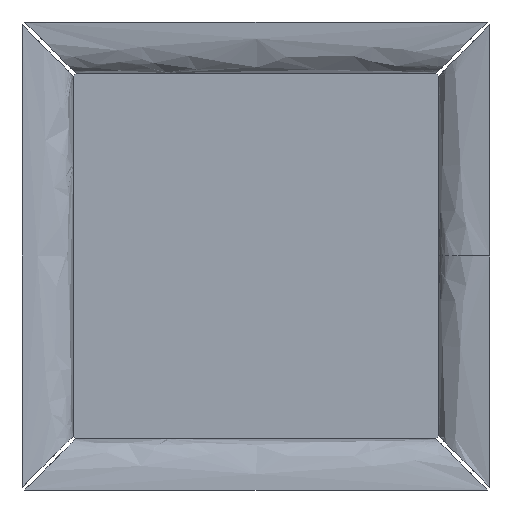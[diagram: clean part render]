
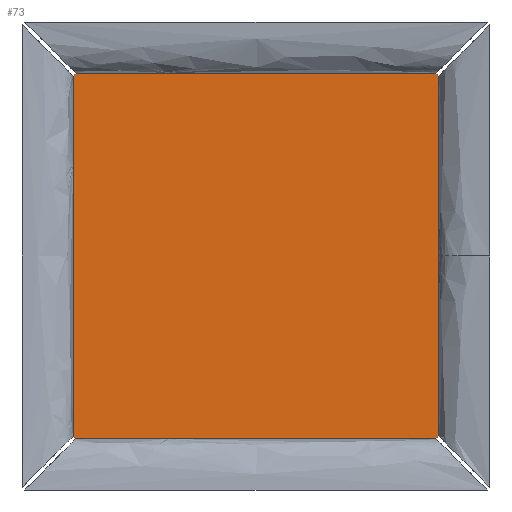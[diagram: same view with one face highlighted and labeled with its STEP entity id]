
A CAD part, front view. The second image highlights one B-rep face of the part: STEP entity #73.
In plain terms, the highlighted planar face has unit normal (0, -1, 0).
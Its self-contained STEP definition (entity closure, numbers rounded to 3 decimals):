
#73=ADVANCED_FACE('',(#141),#1005,.T.);
#141=FACE_OUTER_BOUND('',#209,.T.);
#209=EDGE_LOOP('',(#457,#458,#459,#460,#461,#462,#463,#464));
#457=ORIENTED_EDGE('',*,*,#651,.T.);
#458=ORIENTED_EDGE('',*,*,#665,.T.);
#459=ORIENTED_EDGE('',*,*,#664,.T.);
#460=ORIENTED_EDGE('',*,*,#663,.T.);
#461=ORIENTED_EDGE('',*,*,#662,.T.);
#462=ORIENTED_EDGE('',*,*,#661,.T.);
#463=ORIENTED_EDGE('',*,*,#660,.T.);
#464=ORIENTED_EDGE('',*,*,#659,.T.);
#651=EDGE_CURVE('',#918,#932,#807,.T.);
#659=EDGE_CURVE('',#926,#918,#815,.T.);
#660=EDGE_CURVE('',#927,#926,#816,.T.);
#661=EDGE_CURVE('',#928,#927,#817,.T.);
#662=EDGE_CURVE('',#929,#928,#818,.T.);
#663=EDGE_CURVE('',#930,#929,#819,.T.);
#664=EDGE_CURVE('',#931,#930,#820,.T.);
#665=EDGE_CURVE('',#932,#931,#821,.T.);
#807=B_SPLINE_CURVE_WITH_KNOTS('',1,(#2898,#2899),.UNSPECIFIED.,.F.,.F.,
(2,2),(652.154,653.356),.UNSPECIFIED.);
#815=B_SPLINE_CURVE_WITH_KNOTS('',1,(#2914,#2915),.UNSPECIFIED.,.F.,.F.,
(2,2),(978.862,1086.162),.UNSPECIFIED.);
#816=B_SPLINE_CURVE_WITH_KNOTS('',1,(#2916,#2917),.UNSPECIFIED.,.F.,.F.,
(2,2),(977.66,978.862),.UNSPECIFIED.);
#817=B_SPLINE_CURVE_WITH_KNOTS('',1,(#2918,#2919),.UNSPECIFIED.,.F.,.F.,
(2,2),(870.36,977.66),.UNSPECIFIED.);
#818=B_SPLINE_CURVE_WITH_KNOTS('',1,(#2920,#2921),.UNSPECIFIED.,.F.,.F.,
(2,2),(869.158,870.36),.UNSPECIFIED.);
#819=B_SPLINE_CURVE_WITH_KNOTS('',1,(#2922,#2923),.UNSPECIFIED.,.F.,.F.,
(2,2),(761.858,869.158),.UNSPECIFIED.);
#820=B_SPLINE_CURVE_WITH_KNOTS('',1,(#2924,#2925),.UNSPECIFIED.,.F.,.F.,
(2,2),(760.656,761.858),.UNSPECIFIED.);
#821=B_SPLINE_CURVE_WITH_KNOTS('',1,(#2926,#2927),.UNSPECIFIED.,.F.,.F.,
(2,2),(653.356,760.656),.UNSPECIFIED.);
#918=VERTEX_POINT('',#2879);
#926=VERTEX_POINT('',#2887);
#927=VERTEX_POINT('',#2888);
#928=VERTEX_POINT('',#2889);
#929=VERTEX_POINT('',#2890);
#930=VERTEX_POINT('',#2891);
#931=VERTEX_POINT('',#2892);
#932=VERTEX_POINT('',#2893);
#1005=PLANE('',#1119);
#1119=AXIS2_PLACEMENT_3D('',#2870,#1145,$);
#1145=DIRECTION('',(0.,-1.,0.));
#2870=CARTESIAN_POINT('',(0.,-33.515,-2.485));
#2879=CARTESIAN_POINT('',(1090.,-33.515,1079.015));
#2887=CARTESIAN_POINT('',(1090.,-33.515,6.015));
#2888=CARTESIAN_POINT('',(1081.5,-33.515,-2.485));
#2889=CARTESIAN_POINT('',(8.5,-33.515,-2.485));
#2890=CARTESIAN_POINT('',(0.,-33.515,6.015));
#2891=CARTESIAN_POINT('',(0.,-33.515,1079.015));
#2892=CARTESIAN_POINT('',(8.5,-33.515,1087.515));
#2893=CARTESIAN_POINT('',(1081.5,-33.515,1087.515));
#2898=CARTESIAN_POINT('',(1090.,-33.515,1079.015));
#2899=CARTESIAN_POINT('',(1081.5,-33.515,1087.515));
#2914=CARTESIAN_POINT('',(1090.,-33.515,6.015));
#2915=CARTESIAN_POINT('',(1090.,-33.515,1079.015));
#2916=CARTESIAN_POINT('',(1081.5,-33.515,-2.485));
#2917=CARTESIAN_POINT('',(1090.,-33.515,6.015));
#2918=CARTESIAN_POINT('',(8.5,-33.515,-2.485));
#2919=CARTESIAN_POINT('',(1081.5,-33.515,-2.485));
#2920=CARTESIAN_POINT('',(0.,-33.515,6.015));
#2921=CARTESIAN_POINT('',(8.5,-33.515,-2.485));
#2922=CARTESIAN_POINT('',(0.,-33.515,1079.015));
#2923=CARTESIAN_POINT('',(0.,-33.515,6.015));
#2924=CARTESIAN_POINT('',(8.5,-33.515,1087.515));
#2925=CARTESIAN_POINT('',(0.,-33.515,1079.015));
#2926=CARTESIAN_POINT('',(1081.5,-33.515,1087.515));
#2927=CARTESIAN_POINT('',(8.5,-33.515,1087.515));
